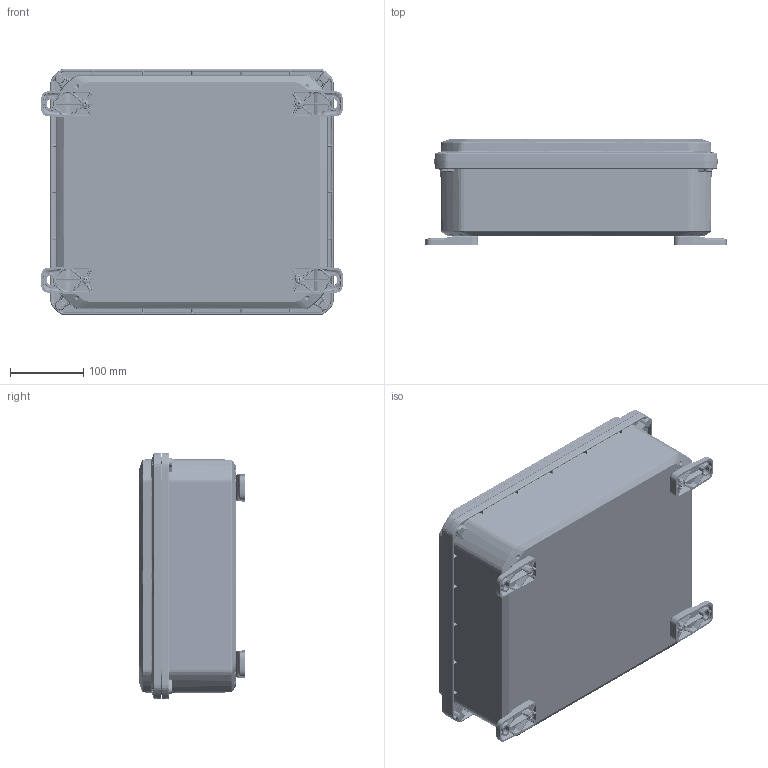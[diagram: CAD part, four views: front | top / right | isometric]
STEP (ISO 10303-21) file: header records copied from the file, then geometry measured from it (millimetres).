
FILE_DESCRIPTION (( 'STEP AP214' ), '1' );
FILE_NAME ('ZQ-141204-17.STEP', '2024-10-25T19:22:47', ( '' ), ( '' ), 'SwSTEP 2.0', 'SolidWorks 2024', '' );
FILE_SCHEMA (( 'AUTOMOTIVE_DESIGN' ));
Length unit declared in the file: inch
Products named in the file (10): Z_-14121C_ZQ-14121C-02; Z_-14124B_ZQ-14124B-01; ZH-01F_ZH-01F-01; ZH-1412G; LABEL-104; INSERTS-4; Z_-14124BI_ZQ-14124BI-01; SCREWS-046_SCREWS-046; ZQ-141204-17; Z_-14121CG_ZQ-14121CG-02
Assembly tree (30 placements, depth 3):
  ZQ-141204-17
    Z_-14124BI_ZQ-14124BI-01
      Z_-14124B_ZQ-14124B-01
      INSERTS-4  x12
      LABEL-104
    Z_-14121CG_ZQ-14121CG-02
      Z_-14121C_ZQ-14121C-02
      ZH-1412G
    SCREWS-046_SCREWS-046  x8
    ZH-01F_ZH-01F-01  x4
Bounding box: 412.75 x 145.34 x 336.3 mm (x, y, z)
Volume: 2116104.1 mm3; surface area: 1010378.1 mm2
Topology: 28 solids, 28 shells, 7994 faces, 19550 edges, 11590 vertices
Faces by surface type: bspline 2468, cone 1720, cylinder 1436, plane 1426, torus 912, sphere 32
Entity records: 239249 total; most frequent: CARTESIAN_POINT 144317, ORIENTED_EDGE 21776, DIRECTION 17546, EDGE_CURVE 10888, AXIS2_PLACEMENT_3D 7587, VERTEX_POINT 6370, EDGE_LOOP 4856, FACE_OUTER_BOUND 4686
